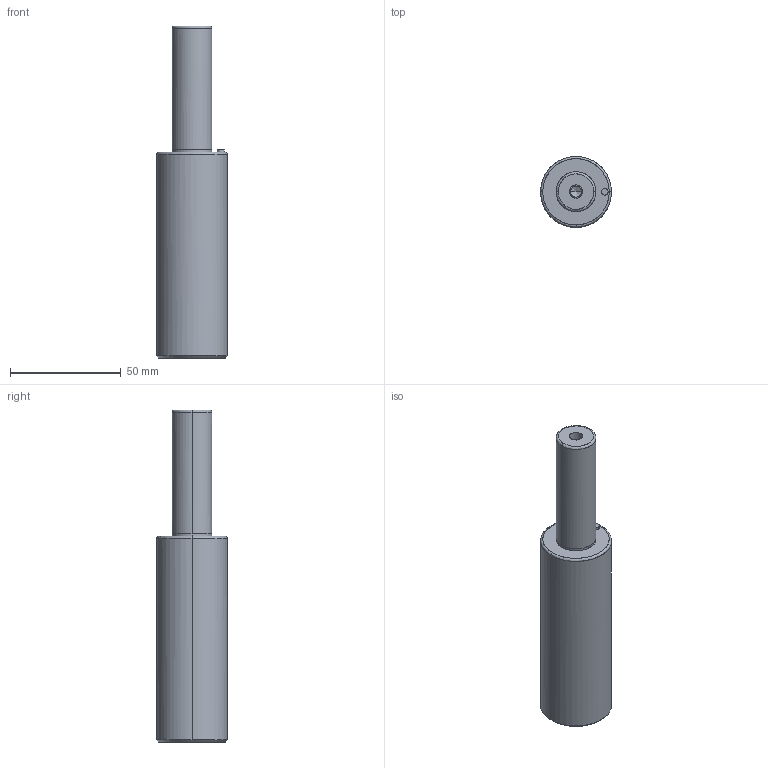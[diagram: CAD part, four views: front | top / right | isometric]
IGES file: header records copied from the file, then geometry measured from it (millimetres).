
Global section: file name: E:\UnigraphicsGraphicData\MISUMI_PRESS-PARTS\IGES\3d_gsc32-56_03838_r00.igs; native system: NX V5.0; preprocessor: UGS NX IGES V5.0; author: MISUMI; date: 20110105.160746; units: millimetre
Bounding box: 32 x 31.98 x 150 mm (x, y, z)
Surface area: 14464 mm2 (no closed solid volume)
Topology: 0 solids, 0 shells, 32 faces, 216 edges, 212 vertices
Faces by surface type: bspline 32
